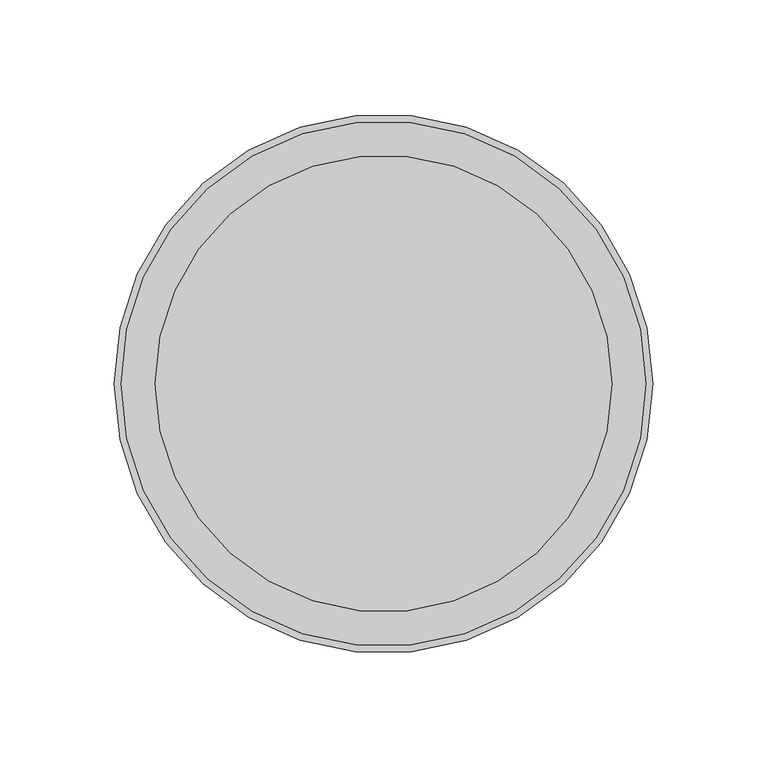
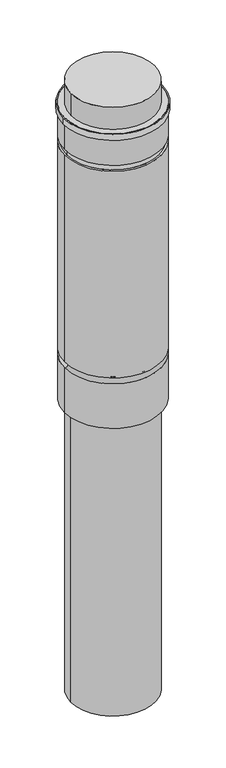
"""IFC4 building model written with IfcOpenShell, lengths in millimetres: air terminal geometry, NLRS_57_AIR_WPB_flue gas rooftop terminal_M&G : PP Black, ø200."""

import ifcopenshell
import ifcopenshell.guid

model = None  # the IFC model being written
_history = None  # IfcOwnerHistory: only IFC2X3 demands one
_inside = {}  # id of a spatial element -> (the spatial element, [elements in it])
_under = {}  # id of a project, library or spatial element -> (it, [spatial elements below it])
_declared = {}  # id of a project -> (the project, [libraries it declares])
_typed = {}  # id of a type object -> (the type object, [elements of that type])
_made_of = {}  # id of a material, layer set ... -> (it, [elements and type objects made of it])


def new_model(schema):
    """Start an empty IFC model of exactly this schema.

    Asked for "IFC4X3", IfcOpenShell would pick the latest addendum, in which some entities
    have other attributes; the version numbers below select the first issue.
    IFC2X3 requires an IfcOwnerHistory on every rooted entity: one is made here for all.
    """
    global model, _history
    if schema == "IFC4X3":
        model = ifcopenshell.file(schema_version=(4, 3, 0, 0))
    else:
        model = ifcopenshell.file(schema=schema)
    _inside.clear()
    _under.clear()
    _declared.clear()
    _typed.clear()
    _made_of.clear()
    _history = None
    if model.schema == "IFC2X3":
        org = make("IfcOrganization", Name="unknown")
        user = make(
            "IfcPersonAndOrganization",
            ThePerson=make("IfcPerson", FamilyName="unknown"),
            TheOrganization=org,
        )
        app = make(
            "IfcApplication",
            ApplicationDeveloper=org,
            Version="unknown",
            ApplicationFullName="unknown",
            ApplicationIdentifier="unknown",
        )
        _history = make(
            "IfcOwnerHistory",
            OwningUser=user,
            OwningApplication=app,
            ChangeAction="ADDED",
            CreationDate=0,
        )
    return model


def make(cls, **values):
    """One entity of the class cls with the attributes given. An attribute that is None is left unset."""
    return model.create_entity(
        cls, **{name: value for name, value in values.items() if value is not None}
    )


def rooted(cls, **values):
    """An entity with a GlobalId (a new one), such as an element, a storey or a relation."""
    return make(cls, GlobalId=ifcopenshell.guid.new(), OwnerHistory=_history, **values)


def si_unit(unit_type, name, prefix=None):
    """IfcSIUnit, for example si_unit("LENGTHUNIT", "METRE", prefix="MILLI")."""
    return make("IfcSIUnit", UnitType=unit_type, Prefix=prefix, Name=name)


def assignment(units):
    """IfcUnitAssignment: the units of a project."""
    return None if units is None else make("IfcUnitAssignment", Units=units)


def point(xyz):
    """IfcCartesianPoint."""
    return None if xyz is None else make("IfcCartesianPoint", Coordinates=xyz)


def direction(xyz):
    """IfcDirection."""
    return None if xyz is None else make("IfcDirection", DirectionRatios=xyz)


def frame(location, z_axis=None, x_axis=None):
    """IfcAxis2Placement3D, a coordinate frame: its origin and axes. An axis left out is left unset."""
    return make(
        "IfcAxis2Placement3D",
        Location=point(location),
        Axis=direction(z_axis),
        RefDirection=direction(x_axis),
    )


def frame_2d(location, x_axis=None):
    """IfcAxis2Placement2D, a coordinate frame in the plane: its origin and x axis."""
    return make(
        "IfcAxis2Placement2D", Location=point(location), RefDirection=direction(x_axis)
    )


def origin():
    """The frame at (0, 0, 0) with its axes left unset."""
    return frame((0.0, 0.0, 0.0))


def origin_with_axes():
    """The frame at (0, 0, 0) with the z axis (0, 0, 1) and the x axis (1, 0, 0) written out."""
    return frame((0.0, 0.0, 0.0), z_axis=(0.0, 0.0, 1.0), x_axis=(1.0, 0.0, 0.0))


def origin_2d():
    """The frame at (0, 0) in the plane with its x axis left unset."""
    return frame_2d((0.0, 0.0))


def place(relative_to, where):
    """IfcLocalPlacement: puts the frame where relative to a parent placement (None: the world)."""
    return make(
        "IfcLocalPlacement", PlacementRelTo=relative_to, RelativePlacement=where
    )


def context(
    kind, dimensions, precision=None, world=None, true_north=None, identifier=None
):
    """IfcGeometricRepresentationContext, for example the 3D "Model" context."""
    return make(
        "IfcGeometricRepresentationContext",
        ContextIdentifier=identifier,
        ContextType=kind,
        CoordinateSpaceDimension=dimensions,
        Precision=precision,
        WorldCoordinateSystem=world,
        TrueNorth=true_north,
    )


def project(units=None, contexts=None):
    """IfcProject with its units and contexts."""
    return rooted(
        "IfcProject",
        Name="project",
        RepresentationContexts=contexts,
        UnitsInContext=assignment(units),
    )


def spatial(cls, under=None, at=None, **own):
    """A site, building, storey or space (cls), placed at a placement, below another one or the project."""
    s = rooted(cls, ObjectPlacement=at, **own)
    if under is not None:
        _under.setdefault(under.id(), (under, []))[1].append(s)
    return s


def circle_curve(where, radius):
    """IfcCircle in the frame where."""
    return make("IfcCircle", Position=where, Radius=radius)


def ellipse_curve(where, semi_axis1, semi_axis2):
    """IfcEllipse in the frame where."""
    return make(
        "IfcEllipse", Position=where, SemiAxis1=semi_axis1, SemiAxis2=semi_axis2
    )


def trimmed(basis, trim1, trim2, sense, master):
    """IfcTrimmedCurve: the piece of a basis curve between two trims."""
    return make(
        "IfcTrimmedCurve",
        BasisCurve=basis,
        Trim1=trim1,
        Trim2=trim2,
        SenseAgreement=sense,
        MasterRepresentation=master,
    )


def segment(curve, same_sense, transition):
    """IfcCompositeCurveSegment."""
    return make(
        "IfcCompositeCurveSegment",
        Transition=transition,
        SameSense=same_sense,
        ParentCurve=curve,
    )


def composite_curve(segments, self_intersect=None):
    """IfcCompositeCurve: segments joined end to end."""
    return make("IfcCompositeCurve", Segments=segments, SelfIntersect=self_intersect)


def outline(outer, holes=None, kind="AREA"):
    """IfcArbitraryClosedProfileDef: a profile drawn as a closed curve; with holes, ...WithVoids."""
    if holes is None:
        return make("IfcArbitraryClosedProfileDef", ProfileType=kind, OuterCurve=outer)
    return make(
        "IfcArbitraryProfileDefWithVoids",
        ProfileType=kind,
        OuterCurve=outer,
        InnerCurves=holes,
    )


def extrude(swept, where, along, depth):
    """IfcExtrudedAreaSolid: the profile swept, set in the frame where, extruded along a direction by depth."""
    return make(
        "IfcExtrudedAreaSolid",
        SweptArea=swept,
        Position=where,
        ExtrudedDirection=direction(along),
        Depth=depth,
    )


def shape(context_of_items, identifier, shape_type, items):
    """IfcShapeRepresentation: the items that make up one representation, for example the "Body"."""
    return make(
        "IfcShapeRepresentation",
        ContextOfItems=context_of_items,
        RepresentationIdentifier=identifier,
        RepresentationType=shape_type,
        Items=items,
    )


def source(mapping_origin, context_of_items, identifier, shape_type, items):
    """IfcRepresentationMap: a shape defined once, which mapped items show again and again."""
    return make(
        "IfcRepresentationMap",
        MappingOrigin=mapping_origin,
        MappedRepresentation=shape(context_of_items, identifier, shape_type, items),
    )


def transform(
    local_origin,
    x_axis=None,
    y_axis=None,
    z_axis=None,
    scale=None,
    scale2=None,
    scale3=None,
    uniform=True,
):
    """IfcCartesianTransformationOperator3D, or its non-uniform kind. x_axis, y_axis, z_axis: its Axis1, 2, 3."""
    if uniform:
        return make(
            "IfcCartesianTransformationOperator3D",
            Axis1=direction(x_axis),
            Axis2=direction(y_axis),
            LocalOrigin=point(local_origin),
            Scale=scale,
            Axis3=direction(z_axis),
        )
    return make(
        "IfcCartesianTransformationOperator3DnonUniform",
        Axis1=direction(x_axis),
        Axis2=direction(y_axis),
        LocalOrigin=point(local_origin),
        Scale=scale,
        Axis3=direction(z_axis),
        Scale2=scale2,
        Scale3=scale3,
    )


def mapped(mapping_source, mapping_target):
    """IfcMappedItem: shows the shape of a source again, moved by a transform."""
    return make(
        "IfcMappedItem", MappingSource=mapping_source, MappingTarget=mapping_target
    )


def made_of(thing, what):
    """Note that an element or type object is made of a material, layer set ...; save() writes the relation."""
    if what is not None:
        _made_of.setdefault(what.id(), (what, []))[1].append(thing)
    return thing


def element(
    cls,
    number,
    at=None,
    inside=None,
    cuts=None,
    type_object=None,
    material=None,
    context=None,
    identifier="Body",
    shape_type=None,
    held_by="IfcProductDefinitionShape",
    body=None,
    shapes=None,
    **own,
):
    """One element of the class cls, such as IfcWall. Its Tag is "e" and its number.

    at: its placement. inside: the storey or other place that contains it. cuts: it is an
    opening in that element (IfcRelVoidsElement). A single representation is given by context,
    identifier, shape_type and body (its items); several are given by shapes. held_by: the class
    of the entity that holds the representations. save() writes the other relations.
    """
    e = rooted(cls, Tag="e%d" % number, ObjectPlacement=at, **own)
    if body is not None:
        shapes = [shape(context, identifier, shape_type, body)]
    if shapes is not None:
        e.Representation = make(held_by, Representations=shapes)
    if inside is not None:
        _inside.setdefault(inside.id(), (inside, []))[1].append(e)
    if cuts is not None:
        rooted(
            "IfcRelVoidsElement", RelatingBuildingElement=cuts, RelatedOpeningElement=e
        )
    if type_object is not None:
        _typed.setdefault(type_object.id(), (type_object, []))[1].append(e)
    return made_of(e, material)


def aggregate(whole, parts):
    """IfcRelAggregates: a whole, such as a stair, and the parts it consists of."""
    return rooted("IfcRelAggregates", RelatingObject=whole, RelatedObjects=parts)


def save(model, path):
    """Write the relations noted so far, then the file.

    IfcRelAggregates (storeys below a building ...), IfcRelContainedInSpatialStructure (elements
    in a storey), IfcRelDefinesByType, IfcRelAssociatesMaterial and IfcRelDeclares: one each for
    every whole, place, type object, material and project.
    """
    for whole, parts in _under.values():
        aggregate(whole, parts)
    for where, things in _inside.values():
        rooted(
            "IfcRelContainedInSpatialStructure",
            RelatedElements=things,
            RelatingStructure=where,
        )
    for kind, things in _typed.values():
        rooted("IfcRelDefinesByType", RelatedObjects=things, RelatingType=kind)
    for what, things in _made_of.values():
        rooted("IfcRelAssociatesMaterial", RelatedObjects=things, RelatingMaterial=what)
    for by, libraries in _declared.values():
        rooted("IfcRelDeclares", RelatingContext=by, RelatedDefinitions=libraries)
    model.write(path)


def plane_surface(at):
    """IfcPlane: the flat surface through the origin of the frame at, square to its z axis."""
    return make("IfcPlane", Position=at)


def cylinder_surface(at, radius):
    """IfcCylindricalSurface: all points at the distance radius from the z axis of the frame at."""
    return make("IfcCylindricalSurface", Position=at, Radius=radius)


def revolved_surface(curve, axis_point, axis_direction):
    """IfcSurfaceOfRevolution: the curve turned about the line through axis_point along axis_direction."""
    return make(
        "IfcSurfaceOfRevolution",
        SweptCurve=make("IfcArbitraryOpenProfileDef", ProfileType="CURVE", Curve=curve),
        AxisPosition=make("IfcAxis1Placement", Location=point(axis_point), Axis=direction(axis_direction)),
    )


def advanced_brep(points, edges, surfaces, faces):
    """IfcAdvancedBrep: a solid bounded by faces that lie on surfaces and meet in shared edges.

    An edge is (start, end): straight between two places in points (the first is 0);
    or (start, end, curve); or (start, end, curve, False) where it runs against its curve.
    A face is (place in surfaces, loops), or (place, loops, False) where it looks against
    its surface's normal. A loop lists edges by number (the first is 1), with a minus sign
    where the edge is run from its end to its start. The first loop is the outer one.
    """
    corners = [point(p) for p in points]
    vertices = [make("IfcVertexPoint", VertexGeometry=c) for c in corners]
    made = []
    for start, end, *more in edges:
        made.append(
            make(
                "IfcEdgeCurve",
                EdgeStart=vertices[start],
                EdgeEnd=vertices[end],
                EdgeGeometry=more[0] if more else make("IfcPolyline", Points=[corners[start], corners[end]]),
                SameSense=more[1] if len(more) > 1 else True,
            )
        )
    hull = []
    for where, loops, *sense in faces:
        bounds = []
        for j, loop in enumerate(loops):
            ring = [make("IfcOrientedEdge", EdgeElement=made[abs(k) - 1], Orientation=k > 0) for k in loop]
            bounds.append(
                make(
                    "IfcFaceOuterBound" if j == 0 else "IfcFaceBound",
                    Bound=make("IfcEdgeLoop", EdgeList=ring),
                    Orientation=True,
                )
            )
        hull.append(make("IfcAdvancedFace", Bounds=bounds, FaceSurface=surfaces[where], SameSense=sense[0] if sense else True))
    return make("IfcAdvancedBrep", Outer=make("IfcClosedShell", CfsFaces=hull))


def air_terminal_d551fddf(model_context):
    return source(origin(), model_context, "Body", "SolidModel", [
        advanced_brep(
        [(-115.0, 0.0, 744.0), (115.0, 0.0, 744.0), (-115.0, 0.0, 0.0), (115.0, 0.0, 0.0), (-115.0, 0.0, 664.0), (115.0, 0.0, 664.0), (115.0, 0.0, 112.5), (-115.0, 0.0, 112.5), (115.0, 0.0, 649.0), (-115.0, 0.0, 649.0), (-115.0, 0.0, 127.5), (115.0, 0.0, 127.5), (110.0, 0.0, 664.0), (110.0, 0.0, 649.0), (-110.0, 0.0, 649.0), (-110.0, 0.0, 664.0)],
        [
            (0, 1, circle_curve(frame((0.0, 0.0, 744.0), z_axis=(0.0, 0.0, 1.0), x_axis=(1.0, 0.0, 0.0)), 115.0)),
            (1, 0, circle_curve(frame((0.0, 0.0, 744.0), z_axis=(0.0, 0.0, 1.0), x_axis=(1.0, 0.0, 0.0)), 115.0)),
            (2, 3, circle_curve(frame((0.0, 0.0, 0.0), z_axis=(0.0, 0.0, -1.0), x_axis=(1.0, 0.0, 0.0)), 115.0)),
            (3, 2, circle_curve(frame((0.0, 0.0, 0.0), z_axis=(0.0, 0.0, -1.0), x_axis=(1.0, 0.0, 0.0)), 115.0)),
            (0, 4),
            (4, 5, circle_curve(frame((0.0, 0.0, 664.0), z_axis=(0.0, 0.0, 1.0), x_axis=(1.0, 0.0, 0.0)), 115.0)),
            (5, 1),
            (3, 6),
            (6, 7, circle_curve(frame((0.0, 0.0, 112.5), z_axis=(0.0, 0.0, -1.0), x_axis=(1.0, 0.0, 0.0)), 115.0)),
            (7, 2),
            (8, 9, circle_curve(frame((0.0, 0.0, 649.0), z_axis=(0.0, 0.0, -1.0), x_axis=(1.0, 0.0, 0.0)), 115.0)),
            (9, 10),
            (10, 11, circle_curve(frame((0.0, 0.0, 127.5), z_axis=(0.0, 0.0, 1.0), x_axis=(1.0, 0.0, 0.0)), 115.0)),
            (11, 8),
            (5, 4, circle_curve(frame((0.0, 0.0, 664.0), z_axis=(0.0, 0.0, 1.0), x_axis=(1.0, 0.0, 0.0)), 115.0)),
            (7, 6, circle_curve(frame((0.0, 0.0, 112.5), z_axis=(0.0, 0.0, -1.0), x_axis=(1.0, 0.0, 0.0)), 115.0)),
            (9, 8, circle_curve(frame((0.0, 0.0, 649.0), z_axis=(0.0, 0.0, -1.0), x_axis=(1.0, 0.0, 0.0)), 115.0)),
            (11, 10, circle_curve(frame((0.0, 0.0, 127.5), z_axis=(0.0, 0.0, 1.0), x_axis=(1.0, 0.0, 0.0)), 115.0)),
            (12, 13),
            (13, 14, circle_curve(frame((0.0, 0.0, 649.0), z_axis=(0.0, 0.0, 1.0), x_axis=(-1.0, 0.0, 0.0)), 110.0)),
            (14, 15),
            (15, 12, circle_curve(frame((0.0, 0.0, 664.0), z_axis=(0.0, 0.0, -1.0), x_axis=(-1.0, 0.0, 0.0)), 110.0)),
            (15, 12, circle_curve(frame((0.0, 0.0, 664.0), z_axis=(0.0, 0.0, 1.0), x_axis=(1.0, 0.0, 0.0)), 110.0)),
            (13, 14, circle_curve(frame((0.0, 0.0, 649.0), z_axis=(0.0, 0.0, -1.0), x_axis=(1.0, 0.0, 0.0)), 110.0)),
            (7, 10, circle_curve(frame((-115.0, 0.0, 120.0), z_axis=(0.0, -1.0, 0.0), x_axis=(-1.0, 0.0, 0.0)), 7.5)),
            (11, 6, circle_curve(frame((115.0, 0.0, 120.0), z_axis=(0.0, -1.0, 0.0), x_axis=(1.0, 0.0, 0.0)), 7.5)),
        ],
        [
            plane_surface(frame((115.0, 0.0, 744.0), z_axis=(0.0, 0.0, 1.0), x_axis=(0.0, 1.0, 0.0))),
            plane_surface(frame((115.0, 0.0, 0.0), z_axis=(0.0, 0.0, -1.0), x_axis=(0.0, -1.0, 0.0))),
            cylinder_surface(origin_with_axes(), 115.0),
            cylinder_surface(frame((0.0, 0.0, 744.0), z_axis=(0.0, 0.0, -1.0), x_axis=(-1.0, 0.0, 0.0)), 110.0),
            plane_surface(frame((0.0, 0.0, 664.0), z_axis=(0.0, 0.0, -1.0), x_axis=(1.0, 0.0, 0.0))),
            plane_surface(frame((0.0, 0.0, 649.0), z_axis=(0.0, 0.0, 1.0), x_axis=(1.0, 0.0, 0.0))),
            cylinder_surface(frame((0.0, 0.0, 744.0), z_axis=(0.0, 0.0, -1.0), x_axis=(1.0, 0.0, 0.0)), 110.0),
            revolved_surface(trimmed(ellipse_curve(frame((115.0, 0.0, 120.0), z_axis=(0.0, 1.0, 0.0), x_axis=(1.0, 0.0, 0.0)), 7.5, 7.5), [point((115.0, 0.0, 112.5))], [point((115.0, 0.0, 127.5))], True, "CARTESIAN"), (0.0, 0.0, 0.0), (0.0, 0.0, 1.0)),
            revolved_surface(trimmed(ellipse_curve(frame((-115.0, 0.0, 120.0), z_axis=(0.0, -1.0, 0.0), x_axis=(-1.0, 0.0, 0.0)), 7.5, 7.5), [point((-115.0, 0.0, 112.5))], [point((-115.0, 0.0, 127.5))], True, "CARTESIAN"), (0.0, 0.0, 0.0), (0.0, 0.0, 1.0)),
        ],
        [
            (0, [[1, 2]]),
            (1, [[3, 4]]),
            (2, [[-1, 5, 6, 7]]),
            (2, [[-4, 8, 9, 10]]),
            (2, [[11, 12, 13, 14]]),
            (2, [[-2, -7, 15, -5]]),
            (2, [[-3, -10, 16, -8]]),
            (2, [[17, -14, 18, -12]]),
            (3, [[19, 20, 21, 22]]),
            (4, [[-6, -15], [-22, 23]]),
            (5, [[-11, -17], [-20, 24]]),
            (6, [[-19, -23, -21, -24]]),
            (7, [[25, -18, 26, -16]]),
            (8, [[-25, -9, -26, -13]]),
        ],
    ),
        extrude(outline(composite_curve([segment(trimmed(circle_curve(origin_2d(), 118.0), [point((-118.0, 0.0))], [point((118.0, 0.0))], False, "CARTESIAN"), True, "CONTINUOUS"), segment(trimmed(circle_curve(origin_2d(), 118.0), [point((118.0, 0.0))], [point((-118.0, 0.0))], False, "CARTESIAN"), True, "CONTINUOUS")], self_intersect=False), holes=[composite_curve([segment(trimmed(circle_curve(origin_2d(), 115.0), [point((115.0, 0.0))], [point((-115.0, 0.0))], True, "CARTESIAN"), True, "CONTINUOUS"), segment(trimmed(circle_curve(origin_2d(), 115.0), [point((-115.0, 0.0))], [point((115.0, 0.0))], True, "CARTESIAN"), True, "CONTINUOUS")], self_intersect=False)]), frame((0.0, 0.0, 729.0), z_axis=(0.0, 0.0, 1.0), x_axis=(1.0, 0.0, 0.0)), (0.0, 0.0, 1.0), 15.0),
        extrude(outline(composite_curve([segment(trimmed(circle_curve(origin_2d(), 100.0), [point((100.0, 0.0))], [point((-100.0, 0.0))], False, "CARTESIAN"), True, "CONTINUOUS"), segment(trimmed(circle_curve(origin_2d(), 100.0), [point((-100.0, 0.0))], [point((100.0, 0.0))], False, "CARTESIAN"), True, "CONTINUOUS")], self_intersect=False)), frame((0.0, 0.0, 744.0), z_axis=(0.0, 0.0, 1.0), x_axis=(1.0, 0.0, 0.0)), (0.0, 0.0, 1.0), 56.0),
        extrude(outline(composite_curve([segment(trimmed(circle_curve(origin_2d(), 100.0), [point((-100.0, 0.0))], [point((100.0, 0.0))], False, "CARTESIAN"), True, "CONTINUOUS"), segment(trimmed(circle_curve(origin_2d(), 100.0), [point((100.0, 0.0))], [point((-100.0, 0.0))], False, "CARTESIAN"), True, "CONTINUOUS")], self_intersect=False)), frame((0.0, 0.0, -736.6244434), z_axis=(0.0, 0.0, 1.0), x_axis=(1.0, 0.0, 0.0)), (0.0, 0.0, 1.0), 736.6244434),
    ])


if __name__ == "__main__":
    model = new_model("IFC4")
    model_context = context("Model", 3, world=origin())
    ifc_project = project(units=[si_unit("LENGTHUNIT", "METRE", prefix="MILLI")], contexts=[model_context])
    site = spatial("IfcSite", under=ifc_project)
    building = spatial("IfcBuilding", under=site)
    placement = place(None, origin())
    air_terminal_shape = air_terminal_d551fddf(model_context)
    element("IfcAirTerminal", 1, ObjectType="NLRS_57_AIR_WPB_flue gas rooftop terminal_M&G : PP Black, ø200", at=placement, inside=building, context=model_context, shape_type="MappedRepresentation", body=[
        mapped(air_terminal_shape, transform((0.0, 0.0, 0.0), x_axis=(1.0, 0.0, 0.0), y_axis=(0.0, 1.0, 0.0), z_axis=(0.0, 0.0, 1.0))),
    ])
    save(model, "model.ifc")
